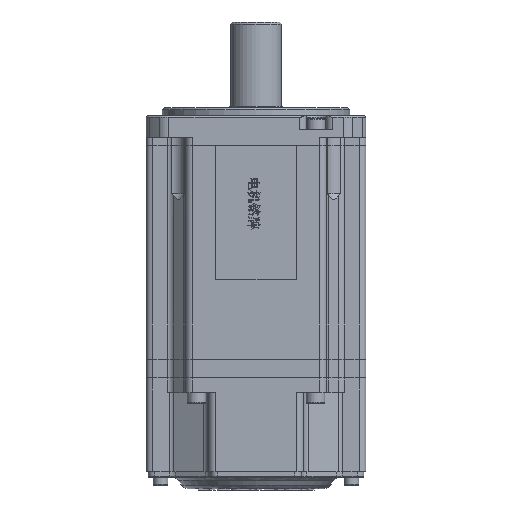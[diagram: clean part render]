
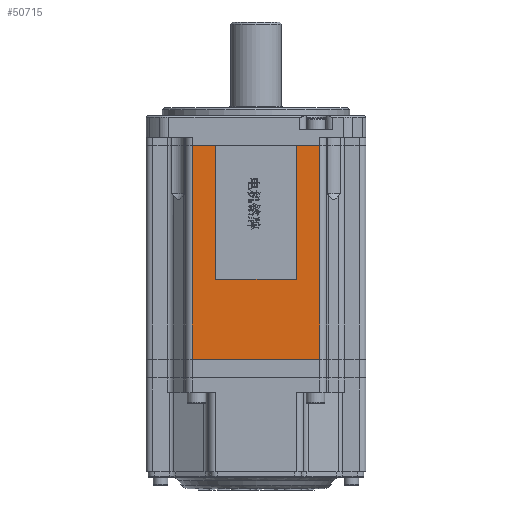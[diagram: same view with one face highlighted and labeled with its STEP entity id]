
A CAD part, front view. The second image highlights one B-rep face of the part: STEP entity #50715.
In plain terms, the highlighted planar face has unit normal (0, -1, 0).
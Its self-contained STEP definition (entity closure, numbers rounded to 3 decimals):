
#1869 = CARTESIAN_POINT ( 'NONE',  ( 15., -41., 29.7 ) ) ;
#2218 = VERTEX_POINT ( 'NONE', #78470 ) ;
#2527 = VECTOR ( 'NONE', #38393, 1000. ) ;
#4304 = CARTESIAN_POINT ( 'NONE',  ( -198.803, -41., 79.7 ) ) ;
#5538 = VECTOR ( 'NONE', #24190, 1000. ) ;
#7309 = VECTOR ( 'NONE', #17113, 1000. ) ;
#9919 = VECTOR ( 'NONE', #66781, 1000. ) ;
#10244 = EDGE_CURVE ( 'NONE', #16730, #72596, #43120, .T. ) ;
#12036 = VECTOR ( 'NONE', #12094, 1000. ) ;
#12094 = DIRECTION ( 'NONE',  ( -1., 0., 0. ) ) ;
#12331 = CARTESIAN_POINT ( 'NONE',  ( 23.75, -41., 1000. ) ) ;
#14484 = CARTESIAN_POINT ( 'NONE',  ( 23.75, -41., 79.7 ) ) ;
#15214 = DIRECTION ( 'NONE',  ( 0., 0., -1. ) ) ;
#16730 = VERTEX_POINT ( 'NONE', #57503 ) ;
#17113 = DIRECTION ( 'NONE',  ( 0., 0., -1. ) ) ;
#17672 = CARTESIAN_POINT ( 'NONE',  ( -23.75, -41., 0. ) ) ;
#18009 = EDGE_CURVE ( 'NONE', #16730, #31550, #79346, .T. ) ;
#19996 = CARTESIAN_POINT ( 'NONE',  ( -15., -41., 29.7 ) ) ;
#20848 = EDGE_CURVE ( 'NONE', #32438, #42089, #27691, .T. ) ;
#21279 = LINE ( 'NONE', #30036, #75683 ) ;
#23915 = CARTESIAN_POINT ( 'NONE',  ( -198.803, -41., 79.7 ) ) ;
#24190 = DIRECTION ( 'NONE',  ( -1., 0., 0. ) ) ;
#26837 = EDGE_CURVE ( 'NONE', #32438, #69850, #55956, .T. ) ;
#27691 = LINE ( 'NONE', #12331, #2527 ) ;
#28342 = LINE ( 'NONE', #17672, #9919 ) ;
#30036 = CARTESIAN_POINT ( 'NONE',  ( 15., -41., 29.7 ) ) ;
#30520 = CARTESIAN_POINT ( 'NONE',  ( -15., -41., 29.7 ) ) ;
#31076 = EDGE_LOOP ( 'NONE', ( #47168, #80427, #35077, #35325, #60271, #37211, #65943, #70371 ) ) ;
#31550 = VERTEX_POINT ( 'NONE', #30520 ) ;
#32438 = VERTEX_POINT ( 'NONE', #14484 ) ;
#32734 = CARTESIAN_POINT ( 'NONE',  ( -23.75, -41., 1000. ) ) ;
#34836 = EDGE_CURVE ( 'NONE', #2218, #42089, #28342, .T. ) ;
#35077 = ORIENTED_EDGE ( 'NONE', *, *, #47083, .F. ) ;
#35325 = ORIENTED_EDGE ( 'NONE', *, *, #18009, .F. ) ;
#37211 = ORIENTED_EDGE ( 'NONE', *, *, #61287, .T. ) ;
#37267 = AXIS2_PLACEMENT_3D ( 'NONE', #32734, #76216, #70489 ) ;
#38393 = DIRECTION ( 'NONE',  ( 0., 0., -1. ) ) ;
#42089 = VERTEX_POINT ( 'NONE', #50681 ) ;
#42253 = CARTESIAN_POINT ( 'NONE',  ( -23.75, -41., 79.7 ) ) ;
#43120 = LINE ( 'NONE', #4304, #12036 ) ;
#43227 = EDGE_CURVE ( 'NONE', #78125, #69850, #21279, .T. ) ;
#46448 = CARTESIAN_POINT ( 'NONE',  ( 15., -41., 79.7 ) ) ;
#47083 = EDGE_CURVE ( 'NONE', #31550, #78125, #77201, .T. ) ;
#47168 = ORIENTED_EDGE ( 'NONE', *, *, #26837, .T. ) ;
#48057 = VECTOR ( 'NONE', #52569, 1000. ) ;
#50681 = CARTESIAN_POINT ( 'NONE',  ( 23.75, -41., 0. ) ) ;
#50715 = ADVANCED_FACE ( 'NONE', ( #67127 ), #57194, .F. ) ;
#52569 = DIRECTION ( 'NONE',  ( 1., 0., 0. ) ) ;
#54047 = VECTOR ( 'NONE', #15214, 1000. ) ;
#54283 = CARTESIAN_POINT ( 'NONE',  ( -23.75, -41., 1000. ) ) ;
#55956 = LINE ( 'NONE', #23915, #5538 ) ;
#57194 = PLANE ( 'NONE',  #37267 ) ;
#57503 = CARTESIAN_POINT ( 'NONE',  ( -15., -41., 79.7 ) ) ;
#60271 = ORIENTED_EDGE ( 'NONE', *, *, #10244, .T. ) ;
#61287 = EDGE_CURVE ( 'NONE', #72596, #2218, #79216, .T. ) ;
#65943 = ORIENTED_EDGE ( 'NONE', *, *, #34836, .T. ) ;
#66781 = DIRECTION ( 'NONE',  ( 1., 0., 0. ) ) ;
#67127 = FACE_OUTER_BOUND ( 'NONE', #31076, .T. ) ;
#68069 = DIRECTION ( 'NONE',  ( 0., 0., 1. ) ) ;
#69850 = VERTEX_POINT ( 'NONE', #46448 ) ;
#70371 = ORIENTED_EDGE ( 'NONE', *, *, #20848, .F. ) ;
#70489 = DIRECTION ( 'NONE',  ( 0., 0., 1. ) ) ;
#72596 = VERTEX_POINT ( 'NONE', #42253 ) ;
#75683 = VECTOR ( 'NONE', #68069, 1000. ) ;
#76216 = DIRECTION ( 'NONE',  ( 0., 1., 0. ) ) ;
#76862 = CARTESIAN_POINT ( 'NONE',  ( -15., -41., 29.7 ) ) ;
#77201 = LINE ( 'NONE', #19996, #48057 ) ;
#78125 = VERTEX_POINT ( 'NONE', #1869 ) ;
#78470 = CARTESIAN_POINT ( 'NONE',  ( -23.75, -41., 0. ) ) ;
#79216 = LINE ( 'NONE', #54283, #7309 ) ;
#79346 = LINE ( 'NONE', #76862, #54047 ) ;
#80427 = ORIENTED_EDGE ( 'NONE', *, *, #43227, .F. ) ;
